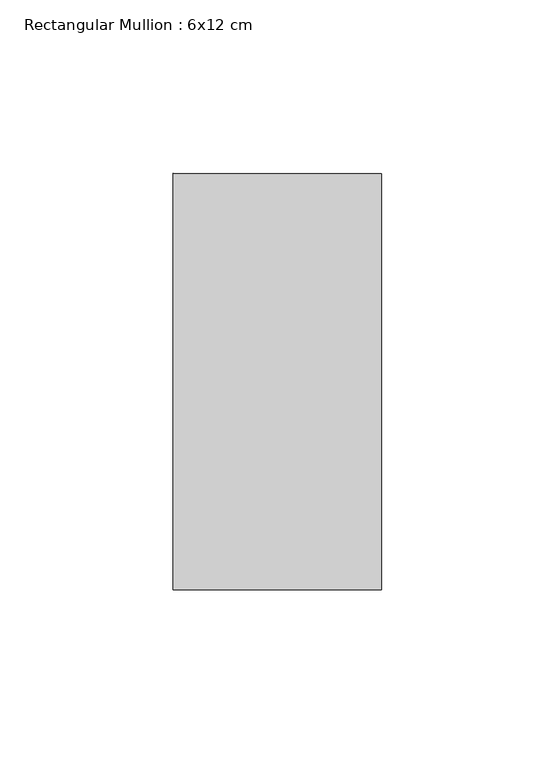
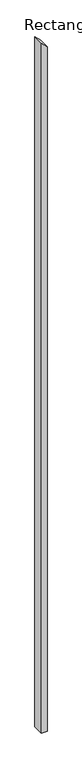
"""IFC4 building model written with IfcOpenShell, lengths in millimetres: member geometry, Rectangular Mullion : 6x12 cm."""

from ifc_helpers import new_model, si_unit, frame, origin, place, context, project, spatial, polyline, outline, extrude, source, transform, mapped, element, save


def rectangular_mullion_6x12_cm_7ad3a4f0(model_context):
    return source(origin(), model_context, "Body", "SweptSolid", [
        extrude(outline(polyline([(-114.7535627, 30.0), (-54.8358015, -30.0), (-7830.8519406, -30.0), (-7830.8519406, 30.0), (-114.7535627, 30.0)])), frame((0.0, 85.0, 0.0), z_axis=(0.0, 1.0, 0.0), x_axis=(0.0, 0.0, 1.0)), (0.0, 0.0, 1.0), 120.0),
    ])


if __name__ == "__main__":
    model = new_model("IFC4")
    model_context = context("Model", 3, world=origin())
    ifc_project = project(units=[si_unit("LENGTHUNIT", "METRE", prefix="MILLI")], contexts=[model_context])
    site = spatial("IfcSite", under=ifc_project)
    building = spatial("IfcBuilding", under=site)
    placement = place(None, origin())
    rectangular_mullion_6x12_cm_shape = rectangular_mullion_6x12_cm_7ad3a4f0(model_context)
    element("IfcMember", 1, ObjectType="Rectangular Mullion : 6x12 cm", at=placement, inside=building, context=model_context, shape_type="MappedRepresentation", body=[
        mapped(rectangular_mullion_6x12_cm_shape, transform((0.0, 0.0, 0.0), x_axis=(1.0, 0.0, 0.0), y_axis=(0.0, 1.0, 0.0), z_axis=(0.0, 0.0, 1.0))),
    ])
    save(model, "model.ifc")
